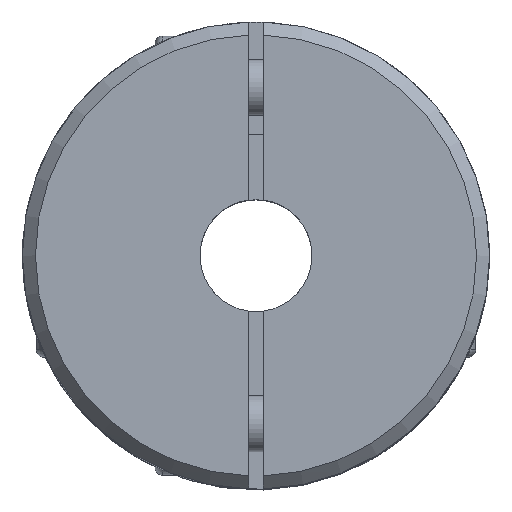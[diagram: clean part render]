
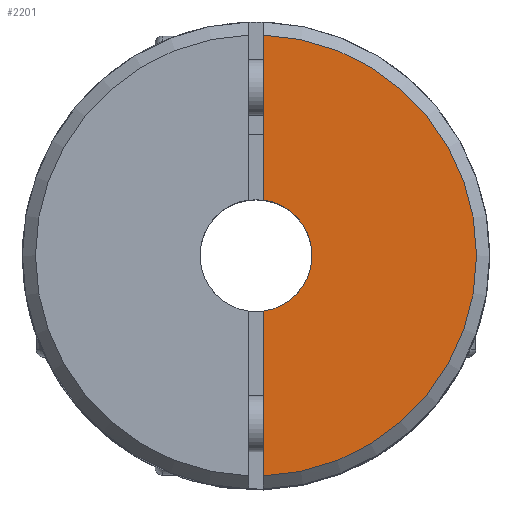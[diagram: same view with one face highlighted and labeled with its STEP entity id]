
A CAD part, top view. The second image highlights one B-rep face of the part: STEP entity #2201.
In plain terms, the highlighted planar face has unit normal (0, 0, 1).
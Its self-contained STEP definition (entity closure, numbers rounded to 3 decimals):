
#174 = VERTEX_POINT ( 'NONE', #1392 ) ;
#391 = DIRECTION ( 'NONE',  ( 0., 1., 0. ) ) ;
#484 = CARTESIAN_POINT ( 'NONE',  ( 0., 1.5, 15.5 ) ) ;
#727 = EDGE_CURVE ( 'NONE', #174, #4230, #3036, .T. ) ;
#780 = EDGE_CURVE ( 'NONE', #2159, #4230, #1460, .T. ) ;
#795 = CARTESIAN_POINT ( 'NONE',  ( 0.4, 15., 15.5 ) ) ;
#840 = VECTOR ( 'NONE', #2157, 1000. ) ;
#1112 = DIRECTION ( 'NONE',  ( 1., 0., 0. ) ) ;
#1392 = CARTESIAN_POINT ( 'NONE',  ( 0.4, -2.973, 15.5 ) ) ;
#1427 = AXIS2_PLACEMENT_3D ( 'NONE', #4249, #2900, #1112 ) ;
#1460 = LINE ( 'NONE', #2112, #840 ) ;
#1583 = DIRECTION ( 'NONE',  ( 0., 1., 0. ) ) ;
#1833 = AXIS2_PLACEMENT_3D ( 'NONE', #4246, #2505, #391 ) ;
#2112 = CARTESIAN_POINT ( 'NONE',  ( 0.4, 15., 15.5 ) ) ;
#2116 = ORIENTED_EDGE ( 'NONE', *, *, #3884, .T. ) ;
#2157 = DIRECTION ( 'NONE',  ( 0., -1., 0. ) ) ;
#2159 = VERTEX_POINT ( 'NONE', #3924 ) ;
#2168 = EDGE_CURVE ( 'NONE', #174, #3954, #4278, .T. ) ;
#2201 = ADVANCED_FACE ( 'NONE', ( #3698 ), #3022, .F. ) ;
#2264 = EDGE_LOOP ( 'NONE', ( #2310, #3729, #2795, #2116 ) ) ;
#2310 = ORIENTED_EDGE ( 'NONE', *, *, #780, .T. ) ;
#2505 = DIRECTION ( 'NONE',  ( 0., 0., 1. ) ) ;
#2549 = CARTESIAN_POINT ( 'NONE',  ( 0.4, -11.793, 15.5 ) ) ;
#2657 = CIRCLE ( 'NONE', #1833, 11.8 ) ;
#2795 = ORIENTED_EDGE ( 'NONE', *, *, #2168, .T. ) ;
#2900 = DIRECTION ( 'NONE',  ( 0., 0., 1. ) ) ;
#3022 = PLANE ( 'NONE',  #3733 ) ;
#3036 = CIRCLE ( 'NONE', #1427, 3. ) ;
#3272 = DIRECTION ( 'NONE',  ( 0., 0., -1. ) ) ;
#3292 = DIRECTION ( 'NONE',  ( 0., -1., 0. ) ) ;
#3698 = FACE_OUTER_BOUND ( 'NONE', #2264, .T. ) ;
#3729 = ORIENTED_EDGE ( 'NONE', *, *, #727, .F. ) ;
#3733 = AXIS2_PLACEMENT_3D ( 'NONE', #484, #3272, #1583 ) ;
#3884 = EDGE_CURVE ( 'NONE', #3954, #2159, #2657, .T. ) ;
#3913 = CARTESIAN_POINT ( 'NONE',  ( 0.4, 2.973, 15.5 ) ) ;
#3924 = CARTESIAN_POINT ( 'NONE',  ( 0.4, 11.793, 15.5 ) ) ;
#3954 = VERTEX_POINT ( 'NONE', #2549 ) ;
#4230 = VERTEX_POINT ( 'NONE', #3913 ) ;
#4246 = CARTESIAN_POINT ( 'NONE',  ( 0., 0., 15.5 ) ) ;
#4249 = CARTESIAN_POINT ( 'NONE',  ( 0., 0., 15.5 ) ) ;
#4278 = LINE ( 'NONE', #795, #4418 ) ;
#4418 = VECTOR ( 'NONE', #3292, 1000. ) ;
